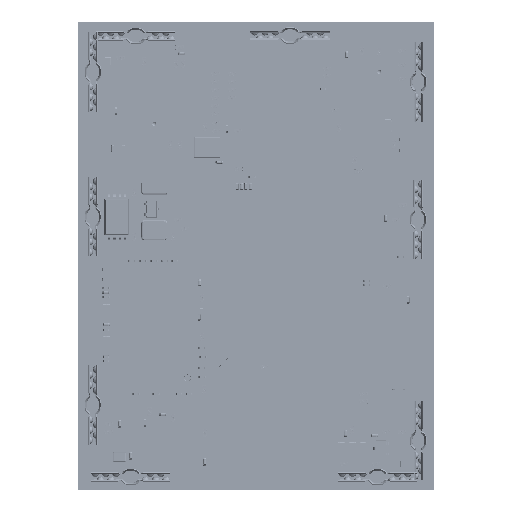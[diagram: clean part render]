
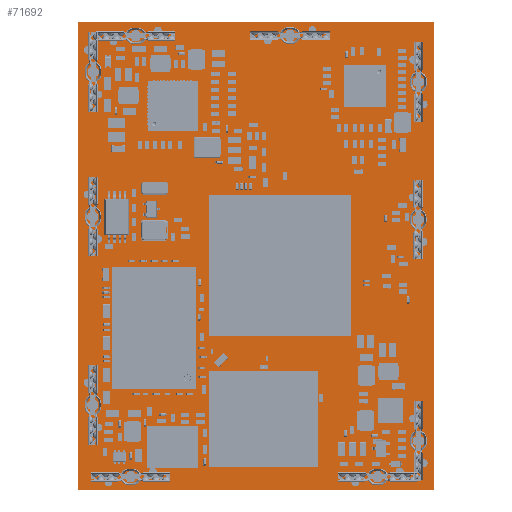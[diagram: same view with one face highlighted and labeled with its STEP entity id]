
A CAD part, top view. The second image highlights one B-rep face of the part: STEP entity #71692.
In plain terms, the highlighted planar face has unit normal (0, 0, 1).
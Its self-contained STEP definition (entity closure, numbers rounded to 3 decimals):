
#53040=FACE_OUTER_BOUND($,#57682,.F.);
#57682=EDGE_LOOP($,(#76384,#76385,#76386,#76387));
#62866=AXIS2_PLACEMENT_3D($,#143354,#125118,$);
#70127=PLANE($,#62866);
#71692=ADVANCED_FACE($,(#53040),#70127,.T.);
#76384=ORIENTED_EDGE($,*,*,#96724,.T.);
#76385=ORIENTED_EDGE($,*,*,#96725,.T.);
#76386=ORIENTED_EDGE($,*,*,#96726,.T.);
#76387=ORIENTED_EDGE($,*,*,#96727,.T.);
#96724=EDGE_CURVE($,#115716,#115717,#111308,.T.);
#96725=EDGE_CURVE($,#115717,#115718,#111309,.T.);
#96726=EDGE_CURVE($,#115718,#115719,#111310,.T.);
#96727=EDGE_CURVE($,#115719,#115716,#111311,.T.);
#106909=VECTOR($,#125150,56.089);
#106910=VECTOR($,#125151,42.593);
#106911=VECTOR($,#125152,56.089);
#106912=VECTOR($,#125153,42.593);
#111308=LINE($,#143353,#106909);
#111309=LINE($,#143354,#106910);
#111310=LINE($,#143355,#106911);
#111311=LINE($,#143356,#106912);
#115716=VERTEX_POINT($,#143353);
#115717=VERTEX_POINT($,#143354);
#115718=VERTEX_POINT($,#143355);
#115719=VERTEX_POINT($,#143356);
#125118=DIRECTION($,(0.,0.,1.));
#125150=DIRECTION($,(0.,1.,0.));
#125151=DIRECTION($,(1.,0.,0.));
#125152=DIRECTION($,(0.,-1.,0.));
#125153=DIRECTION($,(-1.,0.,0.));
#143353=CARTESIAN_POINT('',(-21.285,-28.062,0.001));
#143354=CARTESIAN_POINT('',(-21.285,28.027,0.001));
#143355=CARTESIAN_POINT('',(21.308,28.027,0.001));
#143356=CARTESIAN_POINT('',(21.308,-28.062,0.001));
